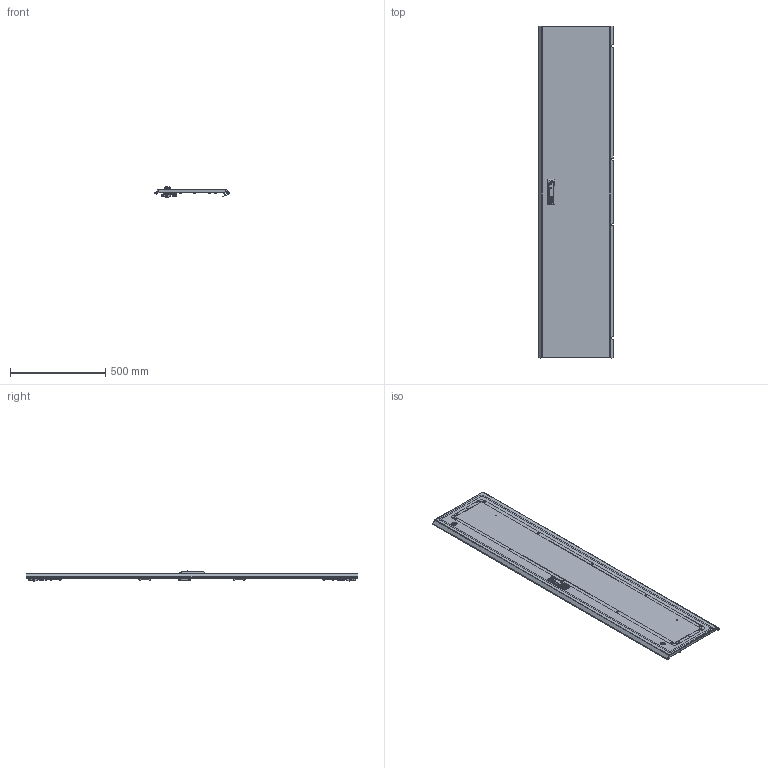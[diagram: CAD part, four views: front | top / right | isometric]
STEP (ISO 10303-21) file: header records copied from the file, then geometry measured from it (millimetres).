
FILE_DESCRIPTION (( 'STEP AP203' ), '1' );
FILE_NAME ('MA1.200.040618.30.00 AleSta-D18M400 Äâåðü ñïëîøíàÿ äëÿ øêàôîâ ALESTA ÂõØ 1800õ400.STEP', '2025-02-19T14:08:51', ( '' ), ( '' ), 'SwSTEP 2.0', 'SolidWorks 2021', '' );
FILE_SCHEMA (( 'CONFIG_CONTROL_DESIGN' ));
Length unit declared in the file: millimetre
Products named in the file (23): Âèíò_ðåçüáîâûäàâëèâàþùèé_Ì5õ12_DIN 7500E_Œ5å12; êðåïëåíèå_êðóãëîé_òÿãè_RG1020-1.stp; Îñü ïåòëè 4õ52_‚¨­â A.M4x0,5x40 ƒŽ‘’ 11644-75; Íàâåñêà íà êîðïóñ ïîä êëåïêó; MS463-2-3(1); MA1.200.060620.31.05 Óãëîâîé óïîð äâåðíîé òÿãè; MA1.200.040618.30.00 AleSta-D18M400 Äâåðü ñïëîøíàÿ äëÿ øêàôîâ ALESTA ÂõØ 1800õ400; Áîëò øåñòèãðàííûé Ì5õ12 DIN 933, êëàññ ïðî÷íîñòè 8.8, îöèíêîâàííàÿ ñòàëü; MA1.200.060620.31.04 需沐朦_惃％; Ãàéêà ñàìîêîíòðÿùàÿñÿ ñ íåéëîíîâîé âñòàâêîé Ì6 DIN 985, êëàññ ïðî÷íîñòè 8, îöèíêîâàííàÿ ñòàëü_Œ5; MA1.200.060620.31.01 Ïîëîòíî äâåðè ñïëîøíîé 2000õ600_1800å400; Óïëîòíèòåëü ïàíåëè íèæíåé_  ‚=1800; äåðæàòåëü_êðóãëîé_òÿãèRG002-RG1010-2-i-RG1010-3-.stp; MA1.200.060620.31.00 Äâåðü ñïëîøíàÿ äëÿ øêàôîâ ALESTA ÂõØ 2000õ600_1800å400; òÿãà_lg001-2.STEP_‚ =1800; MA1.200.060620.31.02 Ðåéêà íà äâåðü âåðòèêàëüíàÿ Â = 2000_‚=1800; 諘蜱齁罻 022 瀁錒瀔隮; Øïèëüêà Ì6õ12_˜¯¨«ìª  Œ6å20; Ãàéêà ñàìîêîíòðÿùàÿñÿ ñ íåéëîíîâîé âñòàâêîé Ì6 DIN 985, êëàññ ïðî÷íîñòè 8, îöèíêîâàííàÿ ñòàëü_Œ6; Âèíò ñàìîíàðåçàþùèé ñ ïîòàéíîé ãîëîâêîé Ì5x16 DIN 7500 M TORX, êëàññ ïðî÷íîñòè 8.8, îöèíêîâàííàÿ ñòàëü_Œ5å16; MA1.200.060620.31.06 赶鎀鍧_100 洵; Øïèëüêà Ì6õ12_˜¯¨«ìª  Œ6å16; MA1.200.060620.31.03 Ðåéêà íà äâåðü ãîðèçîíòàëüíàÿ Ø = 600_˜=400
Assembly tree (84 placements, depth 3):
  MA1.200.040618.30.00 AleSta-D18M400 Äâåðü ñïëîøíàÿ äëÿ øêàôîâ ALESTA ÂõØ 1800õ400
    MA1.200.060620.31.00 Äâåðü ñïëîøíàÿ äëÿ øêàôîâ ALESTA ÂõØ 2000õ600_1800å400
      MA1.200.060620.31.01 Ïîëîòíî äâåðè ñïëîøíîé 2000õ600_1800å400
      Óïëîòíèòåëü ïàíåëè íèæíåé_  ‚=1800
      Øïèëüêà Ì6õ12_˜¯¨«ìª  Œ6å20  x16
      Øïèëüêà Ì6õ12_˜¯¨«ìª  Œ6å16  x4
    MA1.200.060620.31.03 Ðåéêà íà äâåðü ãîðèçîíòàëüíàÿ Ø = 600_˜=400  x2
    諘蜱齁罻 022 瀁錒瀔隮  x4
    MA1.200.060620.31.02 Ðåéêà íà äâåðü âåðòèêàëüíàÿ Â = 2000_‚=1800  x2
    äåðæàòåëü_êðóãëîé_òÿãèRG002-RG1010-2-i-RG1010-3-.stp  x2
    òÿãà_lg001-2.STEP_‚ =1800  x2
    êðåïëåíèå_êðóãëîé_òÿãè_RG1020-1.stp  x2
    MS463-2-3(1)
    Ãàéêà ñàìîêîíòðÿùàÿñÿ ñ íåéëîíîâîé âñòàâêîé Ì6 DIN 985, êëàññ ïðî÷íîñòè 8, îöèíêîâàííàÿ ñòàëü_Œ6  x16
    Ãàéêà ñàìîêîíòðÿùàÿñÿ ñ íåéëîíîâîé âñòàâêîé Ì6 DIN 985, êëàññ ïðî÷íîñòè 8, îöèíêîâàííàÿ ñòàëü_Œ5  x2
    Áîëò øåñòèãðàííûé Ì5õ12 DIN 933, êëàññ ïðî÷íîñòè 8.8, îöèíêîâàííàÿ ñòàëü  x2
    MA1.200.060620.31.05 Óãëîâîé óïîð äâåðíîé òÿãè  x2
    Âèíò_ðåçüáîâûäàâëèâàþùèé_Ì5õ12_DIN 7500E_Œ5å12  x6
    Íàâåñêà íà êîðïóñ ïîä êëåïêó  x4
    Îñü ïåòëè 4õ52_‚¨­â A.M4x0,5x40 ƒŽ‘’ 11644-75  x4
    Âèíò ñàìîíàðåçàþùèé ñ ïîòàéíîé ãîëîâêîé Ì5x16 DIN 7500 M TORX, êëàññ ïðî÷íîñòè 8.8, îöèíêîâàííàÿ ñòàëü_Œ5å16  x8
    MA1.200.060620.31.04 需沐朦_惃％
    MA1.200.060620.31.06 赶鎀鍧_100 洵
Bounding box: 391.81 x 1745 x 52.74 mm (x, y, z)
Volume: 1860377.8 mm3; surface area: 2200240.4 mm2
Topology: 118 solids, 132 shells, 6037 faces, 14952 edges, 9100 vertices
Faces by surface type: plane 2445, cylinder 2375, bspline 661, cone 261, torus 197, sphere 98
Entity records: 138402 total; most frequent: CARTESIAN_POINT 58636, ORIENTED_EDGE 16122, DIRECTION 15113, EDGE_CURVE 8078, AXIS2_PLACEMENT_3D 5387, VERTEX_POINT 5044, LINE 4339, VECTOR 4339
